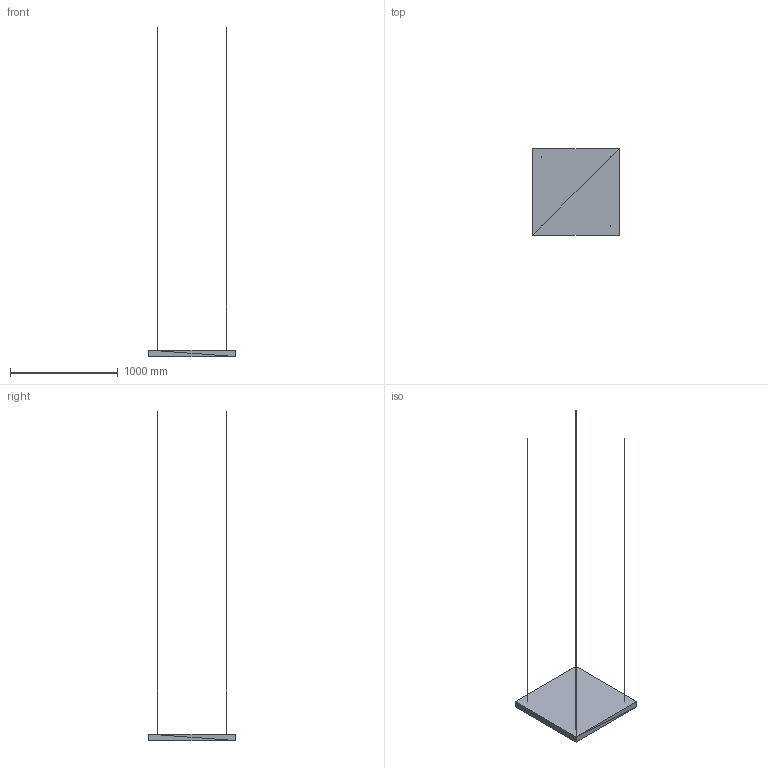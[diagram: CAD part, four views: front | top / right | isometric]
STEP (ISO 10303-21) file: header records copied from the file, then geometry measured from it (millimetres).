
FILE_DESCRIPTION(('ISINAC STEP AP214'),'2;1');
FILE_NAME('ISINAC_C.800_60mm_COLGADO','2026-05-03T10:49:19',('ISINAC'),('www.isinac.com'),'ISINAC BIM Generator 1.0','','');
FILE_SCHEMA(('AUTOMOTIVE_DESIGN'));
Length unit declared in the file: millimetre
Products named in the file (1): ISINAC_C.800_60mm_COLGADO
Bounding box: 800 x 800 x 3060 mm (x, y, z)
Surface area: 1580046 mm2 (no closed solid volume)
Topology: 0 solids, 92 shells, 92 faces, 276 edges, 276 vertices
Faces by surface type: plane 92
Entity records: 1025 total; most frequent: CARTESIAN_POINT 368, DIRECTION 184, POLY_LOOP 92, FACE_OUTER_BOUND 92, AXIS2_PLACEMENT_3D 92, PLANE 92, FACE_SURFACE 92, CLOSED_SHELL 1
